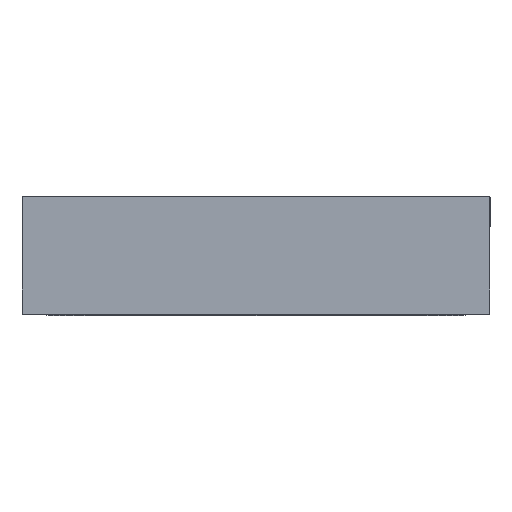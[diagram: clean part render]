
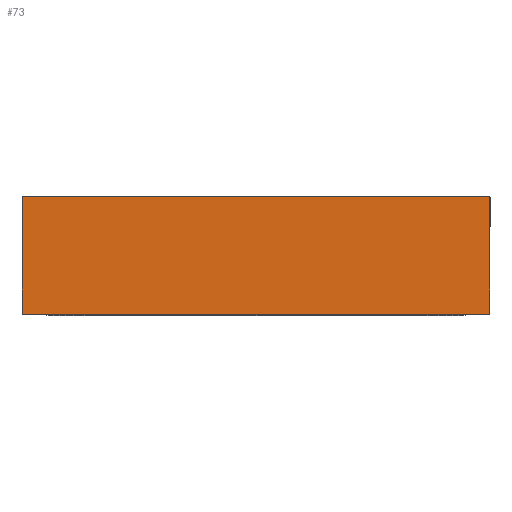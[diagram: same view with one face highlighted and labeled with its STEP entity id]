
A CAD part, top view. The second image highlights one B-rep face of the part: STEP entity #73.
In plain terms, the highlighted planar face has unit normal (0, 0, 1).
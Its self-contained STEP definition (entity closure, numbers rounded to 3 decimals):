
#30 = VECTOR ( 'NONE', #847, 1000. ) ;
#31 = ORIENTED_EDGE ( 'NONE', *, *, #627, .T. ) ;
#73 = ADVANCED_FACE ( 'NONE', ( #798 ), #101, .T. ) ;
#101 = PLANE ( 'NONE',  #1207 ) ;
#112 = ORIENTED_EDGE ( 'NONE', *, *, #1148, .F. ) ;
#161 = DIRECTION ( 'NONE',  ( 0., -1., 0. ) ) ;
#272 = DIRECTION ( 'NONE',  ( 0., 0., 1. ) ) ;
#276 = CARTESIAN_POINT ( 'NONE',  ( -145., 461.263, 417.5 ) ) ;
#288 = CARTESIAN_POINT ( 'NONE',  ( 145., 461.263, 417.5 ) ) ;
#324 = EDGE_CURVE ( 'NONE', #481, #758, #412, .T. ) ;
#343 = VERTEX_POINT ( 'NONE', #479 ) ;
#412 = LINE ( 'NONE', #576, #1079 ) ;
#424 = VECTOR ( 'NONE', #161, 1000. ) ;
#479 = CARTESIAN_POINT ( 'NONE',  ( 145., 73., 417.5 ) ) ;
#481 = VERTEX_POINT ( 'NONE', #818 ) ;
#576 = CARTESIAN_POINT ( 'NONE',  ( -145., 0., 417.5 ) ) ;
#621 = ORIENTED_EDGE ( 'NONE', *, *, #699, .T. ) ;
#622 = LINE ( 'NONE', #288, #30 ) ;
#627 = EDGE_CURVE ( 'NONE', #923, #758, #856, .T. ) ;
#689 = CARTESIAN_POINT ( 'NONE',  ( -145., 73., 417.5 ) ) ;
#699 = EDGE_CURVE ( 'NONE', #343, #923, #1034, .T. ) ;
#732 = VECTOR ( 'NONE', #1085, 1000. ) ;
#758 = VERTEX_POINT ( 'NONE', #1067 ) ;
#798 = FACE_OUTER_BOUND ( 'NONE', #1055, .T. ) ;
#818 = CARTESIAN_POINT ( 'NONE',  ( 145., 0., 417.5 ) ) ;
#847 = DIRECTION ( 'NONE',  ( 0., -1., 0. ) ) ;
#856 = LINE ( 'NONE', #870, #424 ) ;
#870 = CARTESIAN_POINT ( 'NONE',  ( -145., 461.263, 417.5 ) ) ;
#889 = ORIENTED_EDGE ( 'NONE', *, *, #324, .F. ) ;
#912 = CARTESIAN_POINT ( 'NONE',  ( -145., 73., 417.5 ) ) ;
#923 = VERTEX_POINT ( 'NONE', #689 ) ;
#939 = DIRECTION ( 'NONE',  ( 1., 0., 0. ) ) ;
#1034 = LINE ( 'NONE', #912, #732 ) ;
#1055 = EDGE_LOOP ( 'NONE', ( #112, #621, #31, #889 ) ) ;
#1067 = CARTESIAN_POINT ( 'NONE',  ( -145., 0., 417.5 ) ) ;
#1079 = VECTOR ( 'NONE', #1146, 1000. ) ;
#1085 = DIRECTION ( 'NONE',  ( -1., 0., 0. ) ) ;
#1146 = DIRECTION ( 'NONE',  ( -1., 0., 0. ) ) ;
#1148 = EDGE_CURVE ( 'NONE', #343, #481, #622, .T. ) ;
#1207 = AXIS2_PLACEMENT_3D ( 'NONE', #276, #272, #939 ) ;
